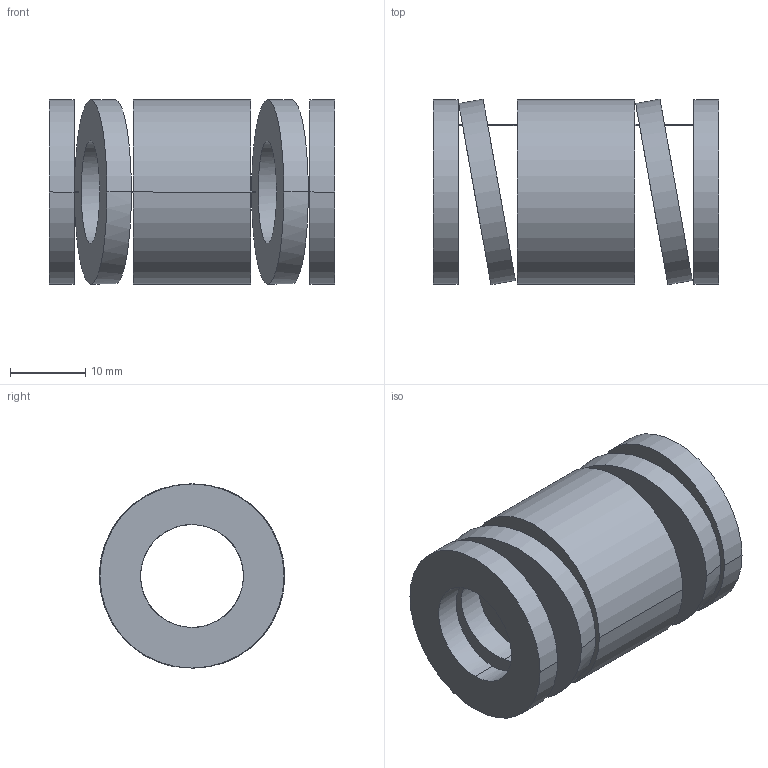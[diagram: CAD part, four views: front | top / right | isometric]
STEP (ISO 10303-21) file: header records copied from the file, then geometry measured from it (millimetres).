
FILE_DESCRIPTION(('CATIA V5 STEP Exchange'),'2;1');
FILE_NAME('C:\Users\Utente\Desktop\IO LAVORO\3D X SITO CF\X SITO\3D files 392B\392-B25-038.stp','2021-08-13T07:51:26+00:00',('none'),('none'),'CATIA Version 5 Release 20 GA (IN-10)','CATIA V5 STEP AP203','none');
FILE_SCHEMA(('CONFIG_CONTROL_DESIGN'));
Length unit declared in the file: millimetre
Products named in the file (1): 392-B25-038
Bounding box: 38 x 24.7 x 24.5 mm (x, y, z)
Volume: 9349.3 mm3; surface area: 6709.1 mm2
Topology: 1 solids, 1 shells, 38 faces, 92 edges, 64 vertices
Faces by surface type: cylinder 28, plane 10
Entity records: 1602 total; most frequent: CARTESIAN_POINT 719, ORIENTED_EDGE 184, DIRECTION 126, EDGE_CURVE 92, VERTEX_POINT 64, AXIS2_PLACEMENT_3D 61, EDGE_LOOP 56, B_SPLINE_CURVE_WITH_KNOTS 42
